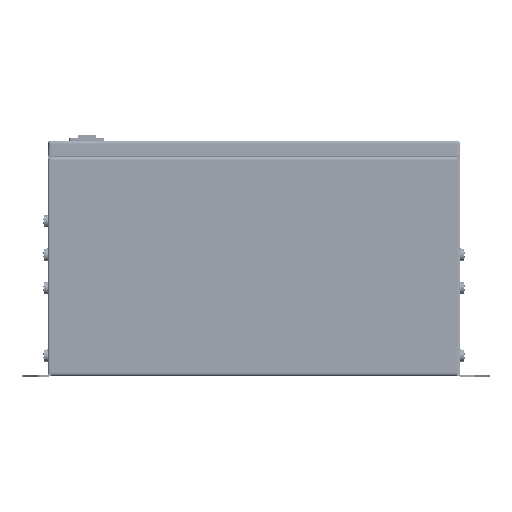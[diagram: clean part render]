
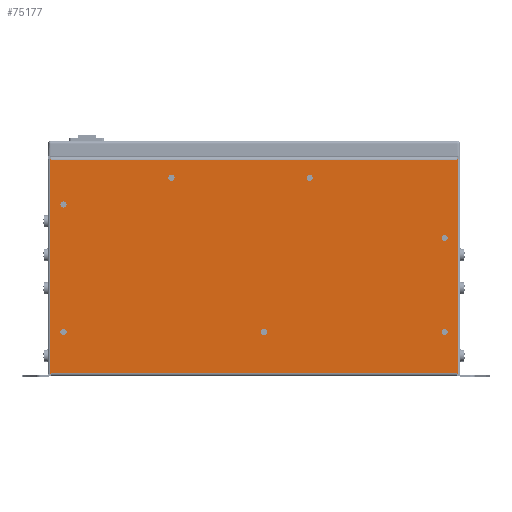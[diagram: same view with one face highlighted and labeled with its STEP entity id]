
A CAD part, left-side view. The second image highlights one B-rep face of the part: STEP entity #75177.
In plain terms, the highlighted planar face has unit normal (-1, 0, 0).
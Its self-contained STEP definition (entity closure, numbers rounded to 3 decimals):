
#16611=DIRECTION('',(0.,-1.,0.));
#16612=VECTOR('',#16611,9.092);
#16613=CARTESIAN_POINT('',(-4.952,-0.078,-4.803));
#16614=LINE('',#16613,#16612);
#16620=DIRECTION('',(0.,-1.,0.));
#16621=VECTOR('',#16620,9.092);
#16622=CARTESIAN_POINT('',(-4.952,-0.078,-0.031));
#16623=LINE('',#16622,#16621);
#16624=DIRECTION('',(0.,0.,-1.));
#16625=VECTOR('',#16624,0.031);
#16626=CARTESIAN_POINT('',(-4.952,-9.17,0.));
#16627=LINE('',#16626,#16625);
#16628=DIRECTION('',(0.,0.,-1.));
#16629=VECTOR('',#16628,0.031);
#16630=CARTESIAN_POINT('',(-4.952,-9.17,-4.803));
#16631=LINE('',#16630,#16629);
#16632=DIRECTION('',(0.,0.,-1.));
#16633=VECTOR('',#16632,0.031);
#16634=CARTESIAN_POINT('',(-4.952,-0.078,-4.803));
#16635=LINE('',#16634,#16633);
#16636=DIRECTION('',(0.,0.,-1.));
#16637=VECTOR('',#16636,0.031);
#16638=CARTESIAN_POINT('',(-4.952,-0.078,0.));
#16639=LINE('',#16638,#16637);
#16640=CARTESIAN_POINT('',(-4.952,-0.349,-1.03));
#16641=DIRECTION('',(1.,0.,0.));
#16642=DIRECTION('',(0.,0.,1.));
#16643=AXIS2_PLACEMENT_3D('',#16640,#16641,#16642);
#16645=CARTESIAN_POINT('',(-4.952,-0.349,-1.03));
#16646=DIRECTION('',(1.,0.,0.));
#16647=DIRECTION('',(0.,0.,-1.));
#16648=AXIS2_PLACEMENT_3D('',#16645,#16646,#16647);
#16650=CARTESIAN_POINT('',(-4.952,-0.349,-3.89));
#16651=DIRECTION('',(1.,0.,0.));
#16652=DIRECTION('',(0.,0.,1.));
#16653=AXIS2_PLACEMENT_3D('',#16650,#16651,#16652);
#16655=CARTESIAN_POINT('',(-4.952,-0.349,-3.89));
#16656=DIRECTION('',(1.,0.,0.));
#16657=DIRECTION('',(0.,0.,-1.));
#16658=AXIS2_PLACEMENT_3D('',#16655,#16656,#16657);
#16660=CARTESIAN_POINT('',(-4.952,-8.899,-3.89));
#16661=DIRECTION('',(1.,0.,0.));
#16662=DIRECTION('',(0.,0.,1.));
#16663=AXIS2_PLACEMENT_3D('',#16660,#16661,#16662);
#16665=CARTESIAN_POINT('',(-4.952,-8.899,-3.89));
#16666=DIRECTION('',(1.,0.,0.));
#16667=DIRECTION('',(0.,0.,-1.));
#16668=AXIS2_PLACEMENT_3D('',#16665,#16666,#16667);
#16670=CARTESIAN_POINT('',(-4.952,-8.899,-1.78));
#16671=DIRECTION('',(1.,0.,0.));
#16672=DIRECTION('',(0.,0.,1.));
#16673=AXIS2_PLACEMENT_3D('',#16670,#16671,#16672);
#16675=CARTESIAN_POINT('',(-4.952,-8.899,-1.78));
#16676=DIRECTION('',(1.,0.,0.));
#16677=DIRECTION('',(0.,0.,-1.));
#16678=AXIS2_PLACEMENT_3D('',#16675,#16676,#16677);
#16680=CARTESIAN_POINT('',(-4.952,-4.849,-3.89));
#16681=DIRECTION('',(1.,0.,0.));
#16682=DIRECTION('',(0.,0.,1.));
#16683=AXIS2_PLACEMENT_3D('',#16680,#16681,#16682);
#16685=CARTESIAN_POINT('',(-4.952,-4.849,-3.89));
#16686=DIRECTION('',(1.,0.,0.));
#16687=DIRECTION('',(0.,0.,-1.));
#16688=AXIS2_PLACEMENT_3D('',#16685,#16686,#16687);
#16690=CARTESIAN_POINT('',(-4.952,-2.771,-0.43));
#16691=DIRECTION('',(1.,0.,0.));
#16692=DIRECTION('',(0.,0.,1.));
#16693=AXIS2_PLACEMENT_3D('',#16690,#16691,#16692);
#16695=CARTESIAN_POINT('',(-4.952,-2.771,-0.43));
#16696=DIRECTION('',(1.,0.,0.));
#16697=DIRECTION('',(0.,0.,-1.));
#16698=AXIS2_PLACEMENT_3D('',#16695,#16696,#16697);
#16700=CARTESIAN_POINT('',(-4.952,-5.871,-0.43));
#16701=DIRECTION('',(1.,0.,0.));
#16702=DIRECTION('',(0.,0.,1.));
#16703=AXIS2_PLACEMENT_3D('',#16700,#16701,#16702);
#16705=CARTESIAN_POINT('',(-4.952,-5.871,-0.43));
#16706=DIRECTION('',(1.,0.,0.));
#16707=DIRECTION('',(0.,0.,-1.));
#16708=AXIS2_PLACEMENT_3D('',#16705,#16706,#16707);
#16773=DIRECTION('',(0.,1.,0.));
#16774=VECTOR('',#16773,0.03);
#16775=CARTESIAN_POINT('',(-4.952,-0.078,0.));
#16776=LINE('',#16775,#16774);
#16804=DIRECTION('',(0.,0.,-1.));
#16805=VECTOR('',#16804,4.834);
#16806=CARTESIAN_POINT('',(-4.952,-0.048,0.));
#16807=LINE('',#16806,#16805);
#16830=DIRECTION('',(0.,1.,0.));
#16831=VECTOR('',#16830,0.03);
#16832=CARTESIAN_POINT('',(-4.952,-0.078,-4.834));
#16833=LINE('',#16832,#16831);
#16915=DIRECTION('',(0.,-1.,0.));
#16916=VECTOR('',#16915,0.03);
#16917=CARTESIAN_POINT('',(-4.952,-9.17,-4.834));
#16918=LINE('',#16917,#16916);
#22435=DIRECTION('',(0.,-1.,0.));
#22436=VECTOR('',#22435,0.03);
#22437=CARTESIAN_POINT('',(-4.952,-9.17,0.));
#22438=LINE('',#22437,#22436);
#37032=DIRECTION('',(0.,0.,-1.));
#37033=VECTOR('',#37032,4.834);
#37034=CARTESIAN_POINT('',(-4.952,-9.2,0.));
#37035=LINE('',#37034,#37033);
#51189=CARTESIAN_POINT('',(-4.952,-0.349,-0.96));
#51190=CARTESIAN_POINT('',(-4.952,-0.349,-1.1));
#51191=VERTEX_POINT('',#51189);
#51192=VERTEX_POINT('',#51190);
#51197=CARTESIAN_POINT('',(-4.952,-0.349,-3.82));
#51198=CARTESIAN_POINT('',(-4.952,-0.349,-3.96));
#51199=VERTEX_POINT('',#51197);
#51200=VERTEX_POINT('',#51198);
#51205=CARTESIAN_POINT('',(-4.952,-8.899,-3.82));
#51206=CARTESIAN_POINT('',(-4.952,-8.899,-3.96));
#51207=VERTEX_POINT('',#51205);
#51208=VERTEX_POINT('',#51206);
#51213=CARTESIAN_POINT('',(-4.952,-8.899,-1.71));
#51214=CARTESIAN_POINT('',(-4.952,-8.899,-1.85));
#51215=VERTEX_POINT('',#51213);
#51216=VERTEX_POINT('',#51214);
#51229=CARTESIAN_POINT('',(-4.952,-4.849,-3.82));
#51230=CARTESIAN_POINT('',(-4.952,-4.849,-3.96));
#51231=VERTEX_POINT('',#51229);
#51232=VERTEX_POINT('',#51230);
#51289=CARTESIAN_POINT('',(-4.952,-0.078,0.));
#51290=CARTESIAN_POINT('',(-4.952,-0.048,0.));
#51291=VERTEX_POINT('',#51289);
#51292=VERTEX_POINT('',#51290);
#51299=CARTESIAN_POINT('',(-4.952,-0.078,-4.834));
#51300=CARTESIAN_POINT('',(-4.952,-0.048,-4.834));
#51301=VERTEX_POINT('',#51299);
#51302=VERTEX_POINT('',#51300);
#51310=CARTESIAN_POINT('',(-4.952,-0.078,-0.031));
#51312=VERTEX_POINT('',#51310);
#51313=CARTESIAN_POINT('',(-4.952,-0.078,-4.803));
#51315=VERTEX_POINT('',#51313);
#56187=CARTESIAN_POINT('',(-4.952,-9.17,0.));
#56188=CARTESIAN_POINT('',(-4.952,-9.2,0.));
#56189=VERTEX_POINT('',#56187);
#56190=VERTEX_POINT('',#56188);
#56197=CARTESIAN_POINT('',(-4.952,-9.17,-4.834));
#56198=CARTESIAN_POINT('',(-4.952,-9.2,-4.834));
#56199=VERTEX_POINT('',#56197);
#56200=VERTEX_POINT('',#56198);
#56208=CARTESIAN_POINT('',(-4.952,-9.17,-0.031));
#56210=VERTEX_POINT('',#56208);
#56211=CARTESIAN_POINT('',(-4.952,-9.17,-4.803));
#56213=VERTEX_POINT('',#56211);
#57903=CARTESIAN_POINT('',(-4.952,-2.771,-0.36));
#57904=CARTESIAN_POINT('',(-4.952,-2.771,-0.5));
#57905=VERTEX_POINT('',#57903);
#57906=VERTEX_POINT('',#57904);
#57919=CARTESIAN_POINT('',(-4.952,-5.871,-0.36));
#57920=CARTESIAN_POINT('',(-4.952,-5.871,-0.5));
#57921=VERTEX_POINT('',#57919);
#57922=VERTEX_POINT('',#57920);
#75106=CARTESIAN_POINT('',(-4.952,0.,-0.031));
#75107=DIRECTION('',(-1.,0.,0.));
#75108=DIRECTION('',(0.,0.,-1.));
#75109=AXIS2_PLACEMENT_3D('',#75106,#75107,#75108);
#75110=PLANE('',#75109);
#75112=ORIENTED_EDGE('',*,*,#75111,.T.);
#75114=ORIENTED_EDGE('',*,*,#75113,.F.);
#75116=ORIENTED_EDGE('',*,*,#75115,.T.);
#75118=ORIENTED_EDGE('',*,*,#75117,.T.);
#75120=ORIENTED_EDGE('',*,*,#75119,.F.);
#75121=ORIENTED_EDGE('',*,*,#75092,.F.);
#75122=ORIENTED_EDGE('',*,*,#75074,.F.);
#75124=ORIENTED_EDGE('',*,*,#75123,.T.);
#75126=ORIENTED_EDGE('',*,*,#75125,.T.);
#75128=ORIENTED_EDGE('',*,*,#75127,.F.);
#75130=ORIENTED_EDGE('',*,*,#75129,.F.);
#75132=ORIENTED_EDGE('',*,*,#75131,.T.);
#75133=EDGE_LOOP('',(#75112,#75114,#75116,#75118,#75120,#75121,#75122,#75124,
#75126,#75128,#75130,#75132));
#75134=FACE_OUTER_BOUND('',#75133,.F.);
#75136=ORIENTED_EDGE('',*,*,#75135,.F.);
#75138=ORIENTED_EDGE('',*,*,#75137,.F.);
#75139=EDGE_LOOP('',(#75136,#75138));
#75140=FACE_BOUND('',#75139,.F.);
#75142=ORIENTED_EDGE('',*,*,#75141,.F.);
#75144=ORIENTED_EDGE('',*,*,#75143,.F.);
#75145=EDGE_LOOP('',(#75142,#75144));
#75146=FACE_BOUND('',#75145,.F.);
#75148=ORIENTED_EDGE('',*,*,#75147,.F.);
#75150=ORIENTED_EDGE('',*,*,#75149,.F.);
#75151=EDGE_LOOP('',(#75148,#75150));
#75152=FACE_BOUND('',#75151,.F.);
#75154=ORIENTED_EDGE('',*,*,#75153,.F.);
#75156=ORIENTED_EDGE('',*,*,#75155,.F.);
#75157=EDGE_LOOP('',(#75154,#75156));
#75158=FACE_BOUND('',#75157,.F.);
#75160=ORIENTED_EDGE('',*,*,#75159,.F.);
#75162=ORIENTED_EDGE('',*,*,#75161,.F.);
#75163=EDGE_LOOP('',(#75160,#75162));
#75164=FACE_BOUND('',#75163,.F.);
#75166=ORIENTED_EDGE('',*,*,#75165,.F.);
#75168=ORIENTED_EDGE('',*,*,#75167,.F.);
#75169=EDGE_LOOP('',(#75166,#75168));
#75170=FACE_BOUND('',#75169,.F.);
#75172=ORIENTED_EDGE('',*,*,#75171,.F.);
#75174=ORIENTED_EDGE('',*,*,#75173,.F.);
#75175=EDGE_LOOP('',(#75172,#75174));
#75176=FACE_BOUND('',#75175,.F.);
#75177=ADVANCED_FACE('',(#75134,#75140,#75146,#75152,#75158,#75164,#75170,
#75176),#75110,.T.);
#16644=CIRCLE('',#16643,0.07);
#16649=CIRCLE('',#16648,0.07);
#16654=CIRCLE('',#16653,0.07);
#16659=CIRCLE('',#16658,0.07);
#16664=CIRCLE('',#16663,0.07);
#16669=CIRCLE('',#16668,0.07);
#16674=CIRCLE('',#16673,0.07);
#16679=CIRCLE('',#16678,0.07);
#16684=CIRCLE('',#16683,0.07);
#16689=CIRCLE('',#16688,0.07);
#16694=CIRCLE('',#16693,0.07);
#16699=CIRCLE('',#16698,0.07);
#16704=CIRCLE('',#16703,0.07);
#16709=CIRCLE('',#16708,0.07);
#75074=EDGE_CURVE('',#51315,#56213,#16614,.T.);
#75092=EDGE_CURVE('',#56213,#56199,#16631,.T.);
#75111=EDGE_CURVE('',#51312,#56210,#16623,.T.);
#75113=EDGE_CURVE('',#56189,#56210,#16627,.T.);
#75115=EDGE_CURVE('',#56189,#56190,#22438,.T.);
#75117=EDGE_CURVE('',#56190,#56200,#37035,.T.);
#75119=EDGE_CURVE('',#56199,#56200,#16918,.T.);
#75123=EDGE_CURVE('',#51315,#51301,#16635,.T.);
#75125=EDGE_CURVE('',#51301,#51302,#16833,.T.);
#75127=EDGE_CURVE('',#51292,#51302,#16807,.T.);
#75129=EDGE_CURVE('',#51291,#51292,#16776,.T.);
#75131=EDGE_CURVE('',#51291,#51312,#16639,.T.);
#75135=EDGE_CURVE('',#51191,#51192,#16644,.T.);
#75137=EDGE_CURVE('',#51192,#51191,#16649,.T.);
#75141=EDGE_CURVE('',#51199,#51200,#16654,.T.);
#75143=EDGE_CURVE('',#51200,#51199,#16659,.T.);
#75147=EDGE_CURVE('',#51207,#51208,#16664,.T.);
#75149=EDGE_CURVE('',#51208,#51207,#16669,.T.);
#75153=EDGE_CURVE('',#51215,#51216,#16674,.T.);
#75155=EDGE_CURVE('',#51216,#51215,#16679,.T.);
#75159=EDGE_CURVE('',#51231,#51232,#16684,.T.);
#75161=EDGE_CURVE('',#51232,#51231,#16689,.T.);
#75165=EDGE_CURVE('',#57905,#57906,#16694,.T.);
#75167=EDGE_CURVE('',#57906,#57905,#16699,.T.);
#75171=EDGE_CURVE('',#57921,#57922,#16704,.T.);
#75173=EDGE_CURVE('',#57922,#57921,#16709,.T.);
